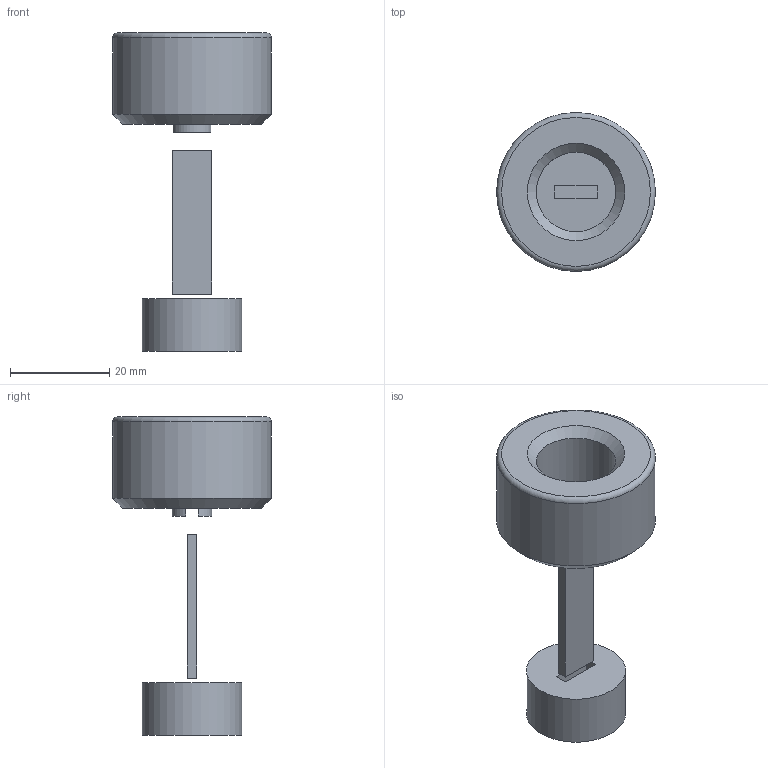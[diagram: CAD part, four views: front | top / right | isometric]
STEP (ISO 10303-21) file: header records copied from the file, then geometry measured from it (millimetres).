
FILE_DESCRIPTION(/* description */ (''),/* implementation_level */ '2;1');
FILE_NAME(/* name */ 'C:/Users/mcjor/Desktop/film_winder_knob.stp',/* time_stamp */ '2022-01-06T12:12:40+01:00',/* author */ (''),/* organization */ (''),/* preprocessor_version */ 'ST-DEVELOPER v15.2',/* originating_system */ 'Autodesk Translator Framework v2.0.0.5431',/* authorisation */ '');
FILE_SCHEMA (('AUTOMOTIVE_DESIGN { 1 0 10303 214 3 1 1 }'));
Length unit declared in the file: centimetre
Products named in the file (1): (Unsaved)
Bounding box: 32 x 32 x 64.08 mm (x, y, z)
Volume: 15363.7 mm3; surface area: 6165.3 mm2
Topology: 3 solids, 3 shells, 30 faces, 65 edges, 43 vertices
Faces by surface type: plane 22, cylinder 5, cone 2, torus 1
Full cylindrical faces by diameter (mm): 16 x1, 20 x1, 32 x1
Entity records: 787 total; most frequent: DIRECTION 132, CARTESIAN_POINT 129, ORIENTED_EDGE 114, EDGE_CURVE 57, LINE 44, VECTOR 44, AXIS2_PLACEMENT_3D 44, VERTEX_POINT 41
